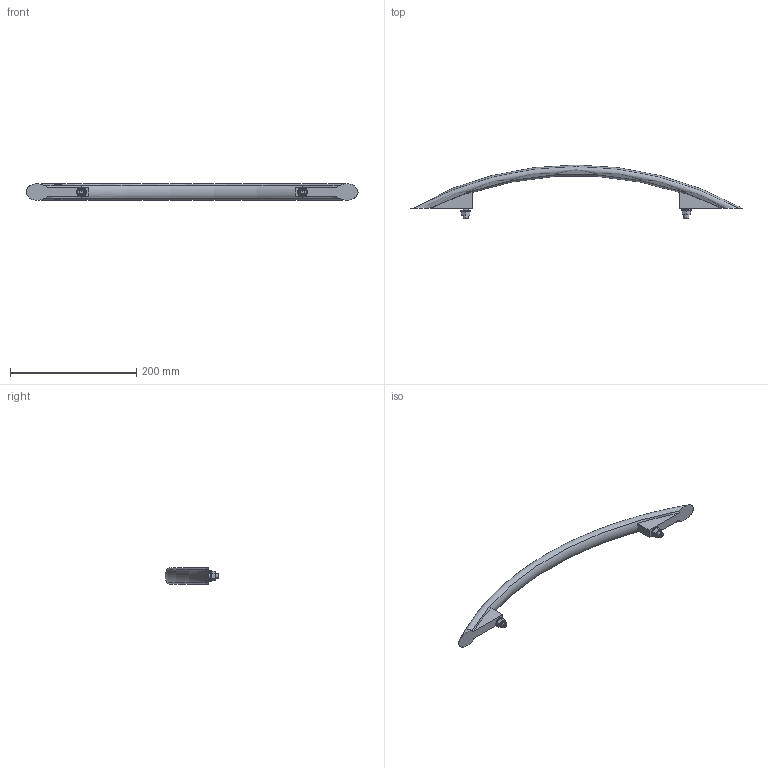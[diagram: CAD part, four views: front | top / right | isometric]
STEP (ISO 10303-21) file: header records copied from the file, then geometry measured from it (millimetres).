
FILE_DESCRIPTION( ( 'STEP AP203' ), '1' );
FILE_NAME( 'C:/Temp/Ganter_Step_05_03_2020/data/1_2/gn_665/Arch handle GN 665-26-350-SR.stp', '2020-03-05T10:12:38', ( 'License CC BY-ND 4.0' ), ( 'CADENAS' ), ' ', 'PARTsolutions', ' ' );
FILE_SCHEMA( ( 'CONFIG_CONTROL_DESIGN' ) );
Length unit declared in the file: millimetre
Products named in the file (3): Arch handle GN 665-26-350-SR; _Bogengriff GN 665-26-350-SR-1; HI_Sechskantmutter ISO 4032/125-M8
Assembly tree (3 placements, depth 2):
  Arch handle GN 665-26-350-SR
    _Bogengriff GN 665-26-350-SR-1
    HI_Sechskantmutter ISO 4032/125-M8  x2
Bounding box: 525.98 x 85.47 x 25.99 mm (x, y, z)
Volume: 205105.5 mm3; surface area: 43395.6 mm2
Topology: 3 solids, 3 shells, 62 faces, 148 edges, 98 vertices
Faces by surface type: plane 38, cone 12, cylinder 8, torus 4
Full cylindrical faces by diameter (mm): 6.647 x2, 8 x2, 8.4 x2, 16 x2
Entity records: 1586 total; most frequent: CARTESIAN_POINT 505, DIRECTION 194, ORIENTED_EDGE 192, EDGE_CURVE 96, AXIS2_PLACEMENT_3D 81, VERTEX_POINT 68, EDGE_LOOP 60, FACE_OUTER_BOUND 50
